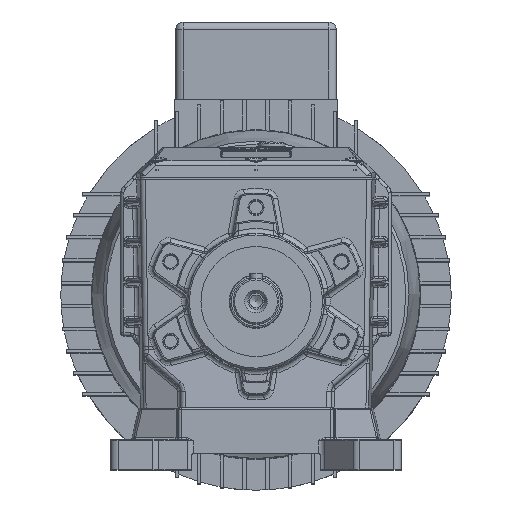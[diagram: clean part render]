
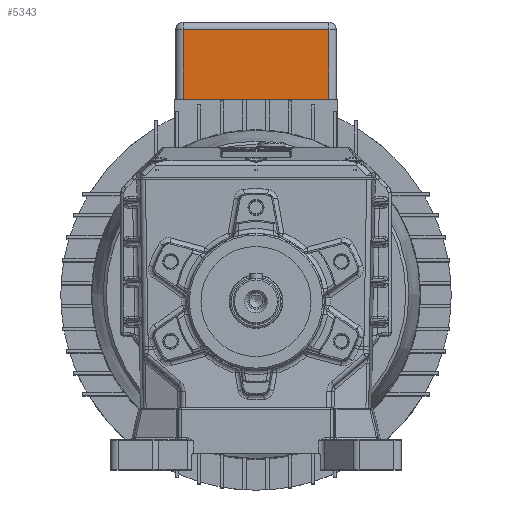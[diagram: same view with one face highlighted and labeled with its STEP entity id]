
A CAD part, top view. The second image highlights one B-rep face of the part: STEP entity #5343.
In plain terms, the highlighted planar face has unit normal (0, 0, 1).
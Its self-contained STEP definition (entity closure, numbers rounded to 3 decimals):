
#5343 = ADVANCED_FACE( '', ( #11188 ), #11189, .T. );
#11188 = FACE_OUTER_BOUND( '', #33020, .T. );
#11189 = PLANE( '', #33021 );
#33020 = EDGE_LOOP( '', ( #50063, #50064, #50065, #50066 ) );
#33021 = AXIS2_PLACEMENT_3D( '', #50067, #50068, #50069 );
#50063 = ORIENTED_EDGE( '', *, *, #54699, .T. );
#50064 = ORIENTED_EDGE( '', *, *, #58492, .T. );
#50065 = ORIENTED_EDGE( '', *, *, #55180, .T. );
#50066 = ORIENTED_EDGE( '', *, *, #58393, .T. );
#50067 = CARTESIAN_POINT( '', ( 52.5, 183.27, -298.9 ) );
#50068 = DIRECTION( '', ( 0., 0., 1. ) );
#50069 = DIRECTION( '', ( 1., 0., 0. ) );
#54699 = EDGE_CURVE( '', #62853, #62858, #62860, .T. );
#55180 = EDGE_CURVE( '', #63604, #63602, #63605, .T. );
#58393 = EDGE_CURVE( '', #63602, #62853, #67789, .F. );
#58492 = EDGE_CURVE( '', #62858, #63604, #67889, .T. );
#62853 = VERTEX_POINT( '', #75285 );
#62858 = VERTEX_POINT( '', #75291 );
#62860 = LINE( '', #75293, #75294 );
#63602 = VERTEX_POINT( '', #76882 );
#63604 = VERTEX_POINT( '', #76884 );
#63605 = LINE( '', #76885, #76886 );
#67789 = LINE( '', #84994, #84995 );
#67889 = LINE( '', #85121, #85122 );
#75285 = CARTESIAN_POINT( '', ( 47.5, 178.27, -298.9 ) );
#75291 = CARTESIAN_POINT( '', ( -47.5, 178.27, -298.9 ) );
#75293 = CARTESIAN_POINT( '', ( 52.5, 178.27, -298.9 ) );
#75294 = VECTOR( '', #88675, 1000. );
#76882 = CARTESIAN_POINT( '', ( 47.5, 132.77, -298.9 ) );
#76884 = CARTESIAN_POINT( '', ( -47.5, 132.77, -298.9 ) );
#76885 = CARTESIAN_POINT( '', ( -53.5, 132.77, -298.9 ) );
#76886 = VECTOR( '', #89252, 1000. );
#84994 = CARTESIAN_POINT( '', ( 47.5, 183.27, -298.9 ) );
#84995 = VECTOR( '', #92719, 1000. );
#85121 = CARTESIAN_POINT( '', ( -47.5, 183.27, -298.9 ) );
#85122 = VECTOR( '', #92784, 1000. );
#88675 = DIRECTION( '', ( -1., 0., 0. ) );
#89252 = DIRECTION( '', ( 1., 0., 0. ) );
#92719 = DIRECTION( '', ( 0., -1., 0. ) );
#92784 = DIRECTION( '', ( 0., -1., 0. ) );
